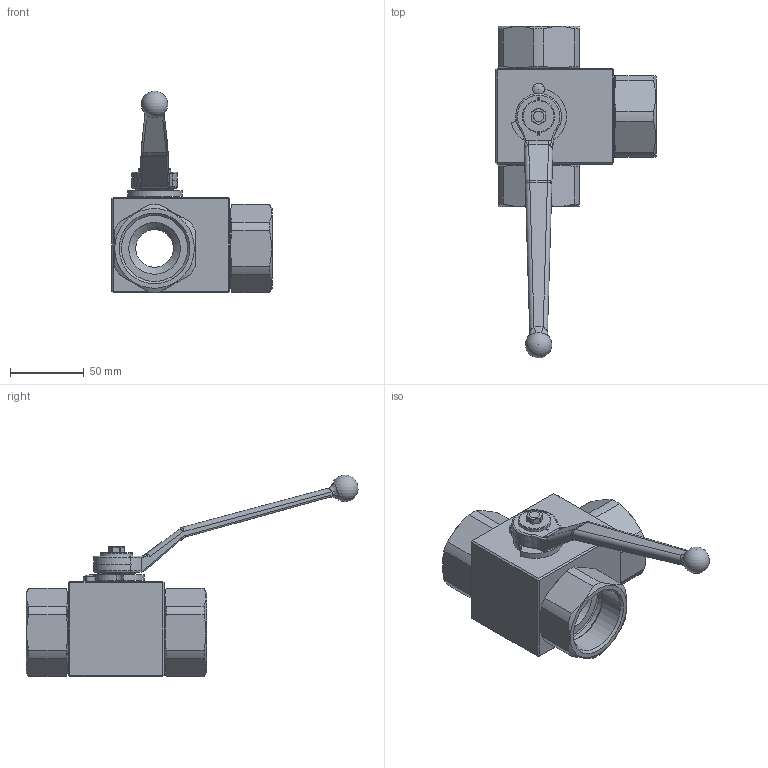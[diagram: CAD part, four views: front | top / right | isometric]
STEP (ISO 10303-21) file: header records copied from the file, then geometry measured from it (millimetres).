
FILE_DESCRIPTION( ( 'Unknown' ), '1' );
FILE_NAME( 'H:/PISTER/3D-MODELLE/BK3-Edelstahl stp/BK3-Edelst DN25 G3_2.stp', 'Unknown', ( 'Unknown' ), ( 'Unknown' ), 'PSStep 14.0', 'Unknown', ' ' );
FILE_SCHEMA( ( 'AUTOMOTIVE_DESIGN { 1 0 10303 214 1 1 1 1 }' ) );
Length unit declared in the file: millimetre
Products named in the file (12): Assem1; 58-28740-10-oa0; 10-025-001-oa2; 56-032-125-oa6; 06-025-009-oa8; 58-0440-007; 58-0933-248; Griff_SW14; 04-025-042-oa9; 04-025-042-oa10; 04-025-042-oa11; 01-025-084-oa12
Assembly tree (11 placements, depth 2):
  Assem1
    58-28740-10-oa0
    10-025-001-oa2
    56-032-125-oa6
    06-025-009-oa8
    58-0440-007
    58-0933-248
    Griff_SW14
    04-025-042-oa9
    04-025-042-oa10
    04-025-042-oa11
    01-025-084-oa12
Bounding box: 108.75 x 225.18 x 136.9 mm (x, y, z)
Volume: 332241.1 mm3; surface area: 96376.2 mm2
Topology: 11 solids, 11 shells, 352 faces, 883 edges, 559 vertices
Faces by surface type: plane 137, cylinder 106, torus 41, cone 33, bspline 32, sphere 3
Full cylindrical faces by diameter (mm): 5 x1, 6 x1, 6.6 x1, 7.98 x1, 20 x2, 20.2 x1, 22 x1, 24 x2, 25 x1, 32 x1, 39.3 x1, 41.376 x1, 41.5 x1, 43 x1, 43.3 x1, 44.845 x3, 45 x3, 47.511 x3, 48 x3, 50.5 x3
Entity records: 15354 total; most frequent: CARTESIAN_POINT 4720, ORIENTED_EDGE 1532, DIRECTION 1525, EDGE_CURVE 766, AXIS2_PLACEMENT_3D 625, VERTEX_POINT 525, EDGE_LOOP 461, FACE_OUTER_BOUND 398
